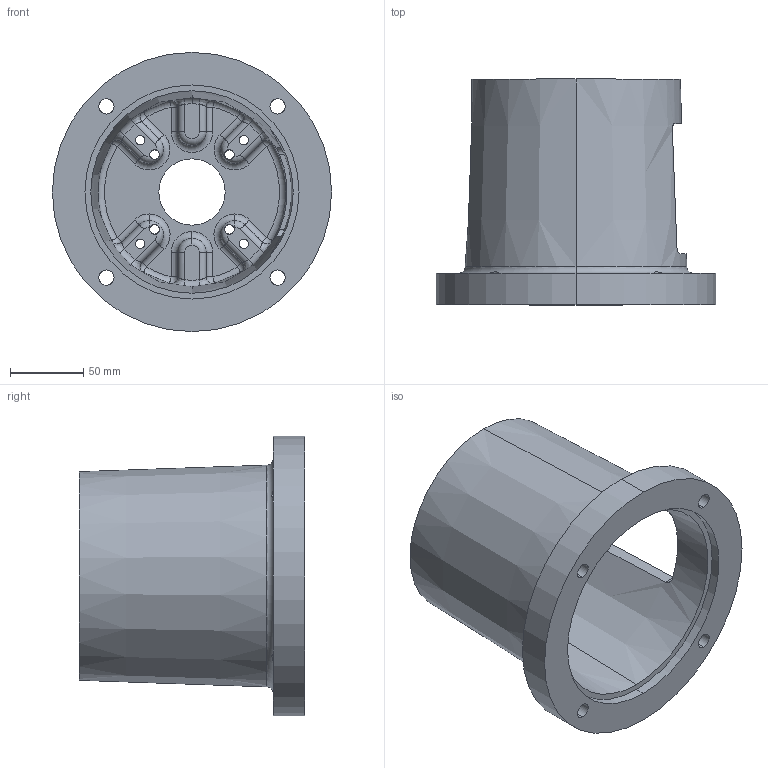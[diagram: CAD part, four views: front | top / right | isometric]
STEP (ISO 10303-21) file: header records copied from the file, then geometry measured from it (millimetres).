
FILE_DESCRIPTION (( 'STEP AP203' ), '1' );
FILE_NAME ('E575604F.STEP', '2014-11-03T16:06:44', ( '' ), ( '' ), 'SwSTEP 2.0', 'SolidWorks 2014', '' );
FILE_SCHEMA (( 'CONFIG_CONTROL_DESIGN' ));
Length unit declared in the file: inch
Products named in the file (1): E575604F
Bounding box: 190.5 x 153.92 x 190.5 mm (x, y, z)
Volume: 762636.9 mm3; surface area: 183067.5 mm2
Topology: 1 solids, 1 shells, 167 faces, 429 edges, 247 vertices
Faces by surface type: cylinder 67, torus 33, plane 27, bspline 24, sphere 12, cone 4
Entity records: 6906 total; most frequent: CARTESIAN_POINT 2868, DIRECTION 865, ORIENTED_EDGE 834, EDGE_CURVE 417, AXIS2_PLACEMENT_3D 380, VERTEX_POINT 247, CIRCLE 236, EDGE_LOOP 190
